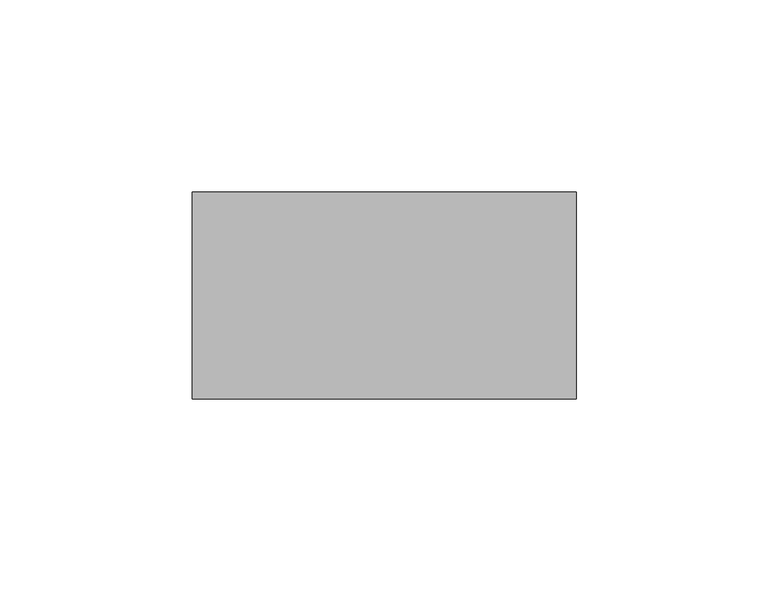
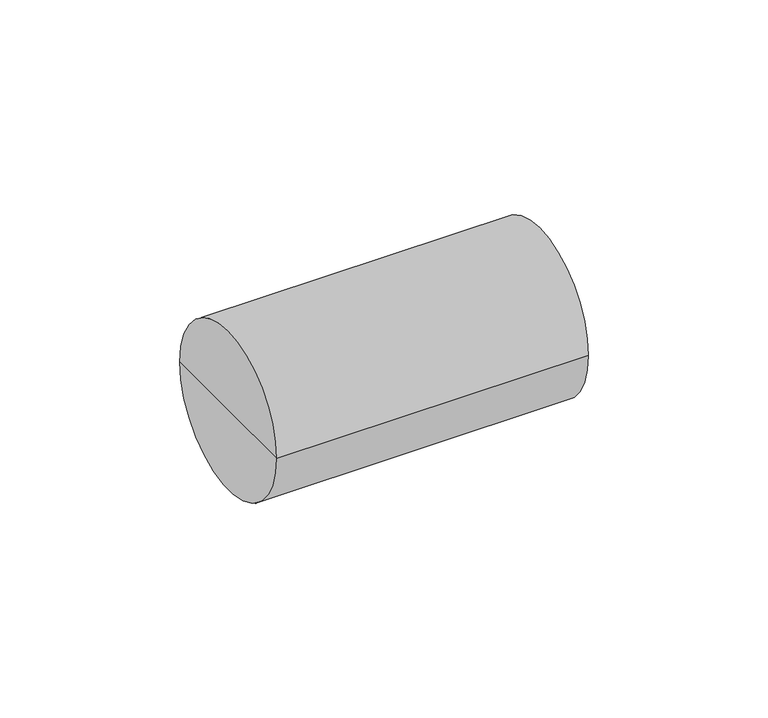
"""IFC4 building model written with IfcOpenShell, lengths in millimetres: cable carrier fitting geometry, Муфта_соед._для_труб : Муфта соед. для трубы 50мм."""

from ifc_helpers import new_model, si_unit, frame, origin, place, context, project, spatial, circle_curve, source, transform, mapped, element, save
from ifc_brep_helpers import plane_surface, cylinder_surface, advanced_brep


def cable_carrier_fitting_fdccebc8(model_context):
    return source(origin(), model_context, "Body", "AdvancedBrep", [
        advanced_brep(
        [(-50.0, -27.0, 0.0), (-50.0, 27.0, 0.0), (50.0, 27.0, 0.0), (50.0, -27.0, 0.0), (-50.0, 0.0, 0.0), (50.0, 0.0, 0.0)],
        [
            (0, 1, circle_curve(frame((-50.0, 0.0, 0.0), z_axis=(1.0, 0.0, 0.0), x_axis=(0.0, 1.0, 0.0)), 27.0)),
            (1, 2),
            (2, 3, circle_curve(frame((50.0, 0.0, 0.0), z_axis=(-1.0, 0.0, 0.0), x_axis=(0.0, 1.0, 0.0)), 27.0)),
            (3, 0),
            (1, 0, circle_curve(frame((-50.0, 0.0, 0.0), z_axis=(1.0, 0.0, 0.0), x_axis=(0.0, 1.0, 0.0)), 27.0)),
            (3, 2, circle_curve(frame((50.0, 0.0, 0.0), z_axis=(-1.0, 0.0, 0.0), x_axis=(0.0, 1.0, 0.0)), 27.0)),
            (4, 1),
            (0, 4),
            (2, 5),
            (5, 3),
        ],
        [
            cylinder_surface(frame((1975.0, 0.0, 0.0), z_axis=(-1.0, 0.0, 0.0), x_axis=(0.0, 1.0, 0.0)), 27.0),
            plane_surface(frame((-50.0, 0.0, 0.0), z_axis=(-1.0, 0.0, 0.0), x_axis=(0.0, 1.0, 0.0))),
            plane_surface(frame((50.0, 0.0, 0.0), z_axis=(1.0, 0.0, 0.0), x_axis=(0.0, 1.0, 0.0))),
        ],
        [
            (0, [[1, 2, 3, 4]]),
            (0, [[5, -4, 6, -2]]),
            (1, [[7, -1, 8]]),
            (1, [[-8, -5, -7]]),
            (2, [[-3, 9, 10]]),
            (2, [[-6, -10, -9]]),
        ],
    ),
    ])


if __name__ == "__main__":
    model = new_model("IFC4")
    model_context = context("Model", 3, world=origin())
    ifc_project = project(units=[si_unit("LENGTHUNIT", "METRE", prefix="MILLI")], contexts=[model_context])
    site = spatial("IfcSite", under=ifc_project)
    building = spatial("IfcBuilding", under=site)
    placement = place(None, origin())
    cable_carrier_fitting_shape = cable_carrier_fitting_fdccebc8(model_context)
    element("IfcCableCarrierFitting", 1, ObjectType="Муфта_соед._для_труб : Муфта соед. для трубы 50мм", at=placement, inside=building, context=model_context, shape_type="MappedRepresentation", body=[
        mapped(cable_carrier_fitting_shape, transform((0.0, 0.0, 0.0), x_axis=(1.0, 0.0, 0.0), y_axis=(0.0, 1.0, 0.0), z_axis=(0.0, 0.0, 1.0))),
    ])
    save(model, "model.ifc")
